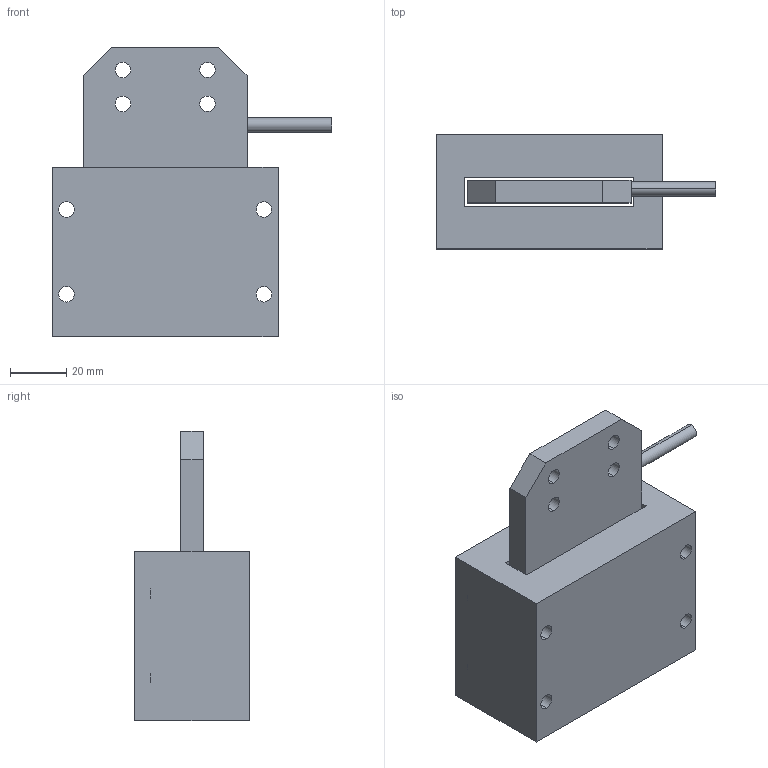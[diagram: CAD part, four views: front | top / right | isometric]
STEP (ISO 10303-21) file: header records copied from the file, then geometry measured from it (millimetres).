
FILE_DESCRIPTION (( 'STEP AP214' ), '1' );
FILE_NAME ('FVP-U3-10蚾饜极.STEP', '2021-12-14T02:44:39', ( 'Microsoft' ), ( 'Microsoft' ), 'SwSTEP 2.0', 'SolidWorks 2016', '' );
FILE_SCHEMA (( 'AUTOMOTIVE_DESIGN' ));
Length unit declared in the file: millimetre
Products named in the file (3): FVP-U3-10雄赽; FVP-U3-10蚾饜极; FVP-U3-10隅赽
Assembly tree (2 placements, depth 2):
  FVP-U3-10蚾饜极
    FVP-U3-10隅赽
    FVP-U3-10雄赽
Bounding box: 99 x 40.5 x 102.5 mm (x, y, z)
Volume: 193845.2 mm3; surface area: 45040.6 mm2
Topology: 2 solids, 6 shells, 81 faces, 184 edges, 120 vertices
Faces by surface type: plane 49, cylinder 32
Entity records: 2416 total; most frequent: DIRECTION 420, CARTESIAN_POINT 390, ORIENTED_EDGE 368, EDGE_CURVE 184, AXIS2_PLACEMENT_3D 150, LINE 120, VERTEX_POINT 120, VECTOR 120
